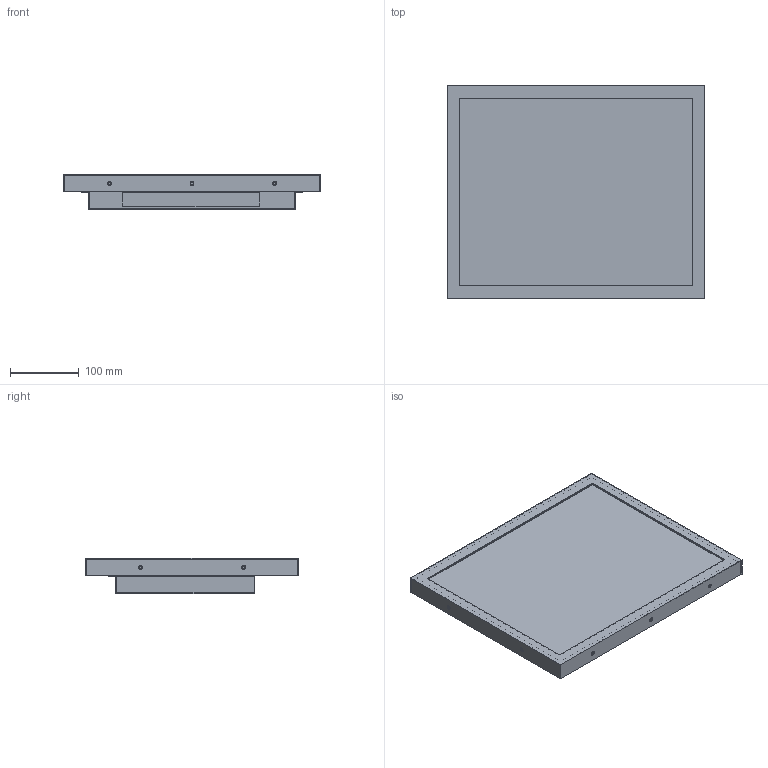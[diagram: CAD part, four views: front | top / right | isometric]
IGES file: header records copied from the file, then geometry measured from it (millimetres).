
Global section: file name: FIE170GM; native system: AutoCAD 2019 – 繁體中文 (Traditional Chinese),62HAutode; preprocessor: sk Translation Framework DWG producer (atf_dwg_producer); organization: unknown; date: 20210629.162147; units: millimetre
Bounding box: 373 x 309 x 51 mm (x, y, z)
Volume: 1310490.8 mm3; surface area: 852182.7 mm2
Topology: 9 solids, 9 shells, 888 faces, 2218 edges, 1466 vertices
Faces by surface type: bspline 888
